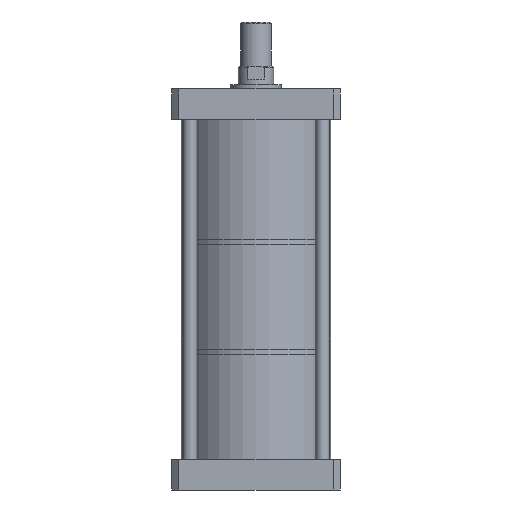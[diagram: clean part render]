
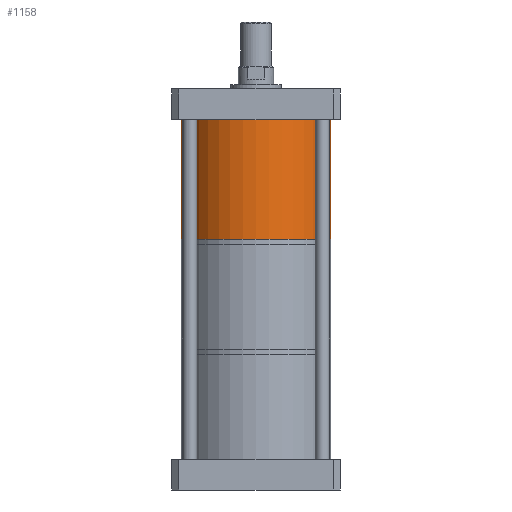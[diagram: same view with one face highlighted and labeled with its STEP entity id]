
A CAD part, front view. The second image highlights one B-rep face of the part: STEP entity #1158.
In plain terms, the highlighted cylindrical face has radius 53 mm (diameter 106 mm), a partial arc.
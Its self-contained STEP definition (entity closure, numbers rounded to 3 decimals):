
#101 = AXIS2_PLACEMENT_3D ( 'NONE', #544, #554, #583 ) ;
#154 = DIRECTION ( 'NONE',  ( 0., 0., -1. ) ) ;
#218 = DIRECTION ( 'NONE',  ( -1., 0., 0. ) ) ;
#231 = AXIS2_PLACEMENT_3D ( 'NONE', #2302, #335, #2635 ) ;
#306 = VECTOR ( 'NONE', #346, 1000. ) ;
#335 = DIRECTION ( 'NONE',  ( 0., 0., -1. ) ) ;
#346 = DIRECTION ( 'NONE',  ( 0., 0., 1. ) ) ;
#370 = CARTESIAN_POINT ( 'NONE',  ( 24.746, 0., -85. ) ) ;
#392 = EDGE_LOOP ( 'NONE', ( #3126, #1009, #469, #1215 ) ) ;
#458 = CARTESIAN_POINT ( 'NONE',  ( -28.254, 0., -85. ) ) ;
#469 = ORIENTED_EDGE ( 'NONE', *, *, #758, .T. ) ;
#501 = EDGE_CURVE ( 'NONE', #1492, #2471, #3618, .T. ) ;
#544 = CARTESIAN_POINT ( 'NONE',  ( 24.746, 0., -85. ) ) ;
#554 = DIRECTION ( 'NONE',  ( 0., 0., 1. ) ) ;
#583 = DIRECTION ( 'NONE',  ( 1., 0., 0. ) ) ;
#605 = EDGE_CURVE ( 'NONE', #2236, #1492, #671, .T. ) ;
#671 = CIRCLE ( 'NONE', #1611, 53. ) ;
#758 = EDGE_CURVE ( 'NONE', #2236, #3867, #3450, .T. ) ;
#1009 = ORIENTED_EDGE ( 'NONE', *, *, #605, .F. ) ;
#1158 = ADVANCED_FACE ( 'NONE', ( #1184 ), #3729, .T. ) ;
#1184 = FACE_OUTER_BOUND ( 'NONE', #392, .T. ) ;
#1215 = ORIENTED_EDGE ( 'NONE', *, *, #3512, .T. ) ;
#1492 = VERTEX_POINT ( 'NONE', #458 ) ;
#1611 = AXIS2_PLACEMENT_3D ( 'NONE', #370, #154, #218 ) ;
#1792 = CARTESIAN_POINT ( 'NONE',  ( -28.254, 0., -85. ) ) ;
#2183 = CARTESIAN_POINT ( 'NONE',  ( 77.746, 0., -85. ) ) ;
#2236 = VERTEX_POINT ( 'NONE', #2183 ) ;
#2302 = CARTESIAN_POINT ( 'NONE',  ( 24.746, 0., 0. ) ) ;
#2471 = VERTEX_POINT ( 'NONE', #2762 ) ;
#2558 = VECTOR ( 'NONE', #3259, 1000. ) ;
#2635 = DIRECTION ( 'NONE',  ( -1., 0., 0. ) ) ;
#2762 = CARTESIAN_POINT ( 'NONE',  ( -28.254, 0., 0. ) ) ;
#2808 = CARTESIAN_POINT ( 'NONE',  ( 77.746, 0., 0. ) ) ;
#3126 = ORIENTED_EDGE ( 'NONE', *, *, #501, .F. ) ;
#3259 = DIRECTION ( 'NONE',  ( 0., 0., 1. ) ) ;
#3289 = CARTESIAN_POINT ( 'NONE',  ( 77.746, 0., -85. ) ) ;
#3450 = LINE ( 'NONE', #3289, #2558 ) ;
#3512 = EDGE_CURVE ( 'NONE', #3867, #2471, #4198, .T. ) ;
#3618 = LINE ( 'NONE', #1792, #306 ) ;
#3729 = CYLINDRICAL_SURFACE ( 'NONE', #101, 53. ) ;
#3867 = VERTEX_POINT ( 'NONE', #2808 ) ;
#4198 = CIRCLE ( 'NONE', #231, 53. ) ;
